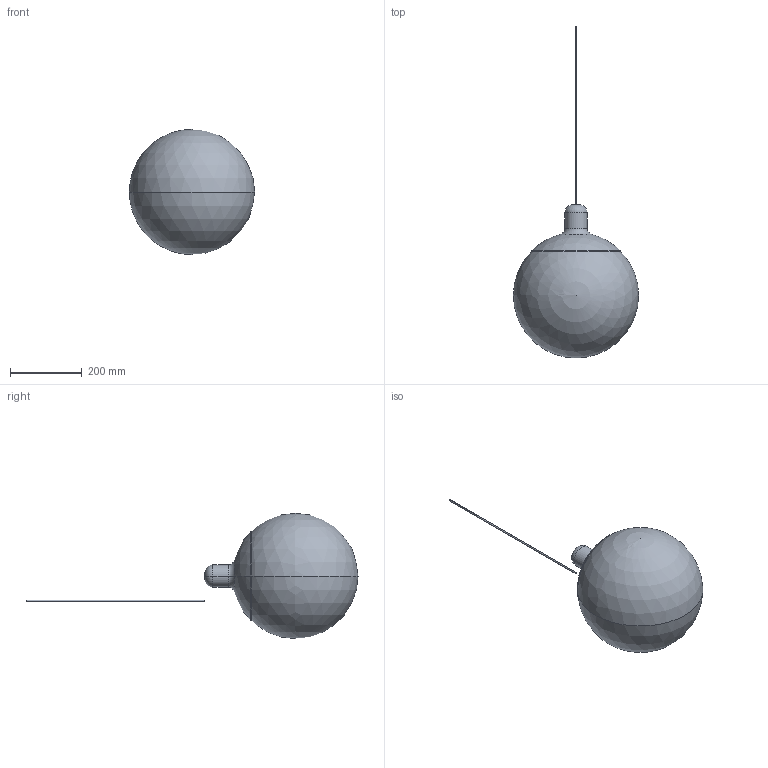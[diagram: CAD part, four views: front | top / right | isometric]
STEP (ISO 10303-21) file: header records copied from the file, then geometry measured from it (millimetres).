
FILE_DESCRIPTION (( 'STEP AP214' ), '1' );
FILE_NAME ('Dolly_pendel_grön_BS.STEP', '2019-11-18T10:07:13', ( '' ), ( '' ), 'SwSTEP 2.0', 'SolidWorks 2018', '' );
FILE_SCHEMA (( 'AUTOMOTIVE_DESIGN' ));
Length unit declared in the file: millimetre
Products named in the file (3): sladd_dolly_pendel_BS; Dolly_Gr霵_BS; Dolly_pendel_gr霵_BS
Assembly tree (2 placements, depth 2):
  Dolly_pendel_gr霵_BS
    Dolly_Gr霵_BS
    sladd_dolly_pendel_BS
Bounding box: 350 x 928 x 350 mm (x, y, z)
Volume: 25214369 mm3; surface area: 1267535.5 mm2
Topology: 4 solids, 5 shells, 22 faces, 49 edges, 31 vertices
Faces by surface type: sphere 8, torus 6, cylinder 4, plane 4
Entity records: 638 total; most frequent: DIRECTION 118, CARTESIAN_POINT 83, ORIENTED_EDGE 68, AXIS2_PLACEMENT_3D 57, EDGE_CURVE 34, CIRCLE 30, FACE_OUTER_BOUND 22, ADVANCED_FACE 22
